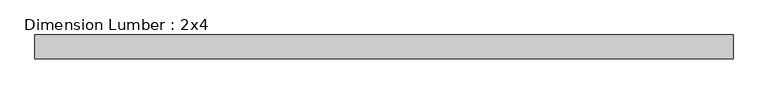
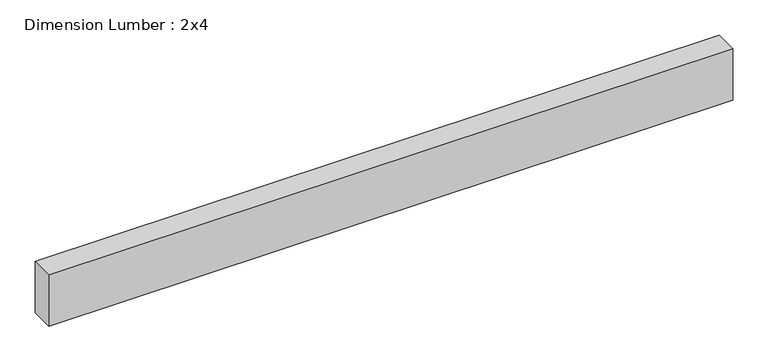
"""IFC4 building model written with IfcOpenShell, lengths in millimetres: beam geometry, Dimension Lumber : 2x4."""

from ifc_helpers import new_model, si_unit, frame, origin, place, context, project, spatial, polyline, outline, extrude, source, transform, mapped, element, save


def dimension_lumber_2x4_f36af3d6(model_context):
    return source(origin(), model_context, "Body", "SweptSolid", [
        extrude(outline(polyline([(558.4264706, 19.05), (558.4264706, -19.05), (-558.4264706, -19.05), (-558.4264706, 19.05), (558.4264706, 19.05)])), frame((0.0, 0.0, -44.45), z_axis=(0.0, 0.0, 1.0), x_axis=(1.0, 0.0, 0.0)), (0.0, 0.0, 1.0), 88.9),
    ])


if __name__ == "__main__":
    model = new_model("IFC4")
    model_context = context("Model", 3, world=origin())
    ifc_project = project(units=[si_unit("LENGTHUNIT", "METRE", prefix="MILLI")], contexts=[model_context])
    site = spatial("IfcSite", under=ifc_project)
    building = spatial("IfcBuilding", under=site)
    placement = place(None, origin())
    dimension_lumber_2x4_shape = dimension_lumber_2x4_f36af3d6(model_context)
    element("IfcBeam", 1, ObjectType="Dimension Lumber : 2x4", at=placement, inside=building, context=model_context, shape_type="MappedRepresentation", body=[
        mapped(dimension_lumber_2x4_shape, transform((0.0, 0.0, 0.0), x_axis=(1.0, 0.0, 0.0), y_axis=(0.0, 1.0, 0.0), z_axis=(0.0, 0.0, 1.0))),
    ])
    save(model, "model.ifc")
